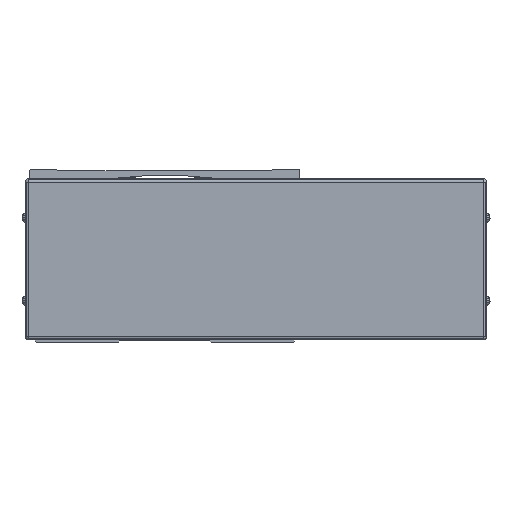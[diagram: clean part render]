
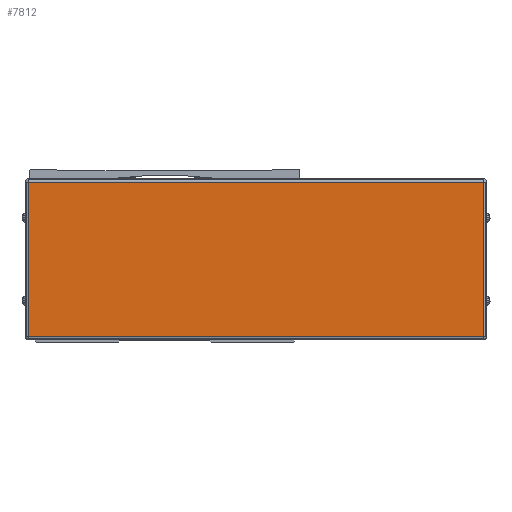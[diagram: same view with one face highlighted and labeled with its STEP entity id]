
A CAD part, front view. The second image highlights one B-rep face of the part: STEP entity #7812.
In plain terms, the highlighted planar face has unit normal (0, -1, 0).
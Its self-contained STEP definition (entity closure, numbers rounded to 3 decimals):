
#7812=ADVANCED_FACE('',(#15705),#15706,.T.);
#15705=FACE_OUTER_BOUND('',#25924,.T.);
#15706=PLANE('',#25925);
#25924=EDGE_LOOP('',(#48749,#48750,#48751,#48752));
#25925=AXIS2_PLACEMENT_3D('',#48753,#48754,#48755);
#48749=ORIENTED_EDGE('',*,*,#54082,.F.);
#48750=ORIENTED_EDGE('',*,*,#49634,.F.);
#48751=ORIENTED_EDGE('',*,*,#55990,.F.);
#48752=ORIENTED_EDGE('',*,*,#56530,.F.);
#48753=CARTESIAN_POINT('',(-545.,27.222,-2.));
#48754=DIRECTION('',(0.,-1.0,0.));
#48755=DIRECTION('',(1.0,0.,0.));
#49634=EDGE_CURVE('',#59199,#59201,#59202,.T.);
#54082=EDGE_CURVE('',#59201,#66158,#66518,.T.);
#55990=EDGE_CURVE('',#64283,#59199,#69066,.T.);
#56530=EDGE_CURVE('',#66158,#64283,#69716,.T.);
#59199=VERTEX_POINT('',#73030);
#59201=VERTEX_POINT('',#73032);
#59202=LINE('',#73033,#73034);
#64283=VERTEX_POINT('',#80395);
#66158=VERTEX_POINT('',#83358);
#66518=LINE('',#83885,#83886);
#69066=LINE('',#87887,#87888);
#69716=LINE('',#88798,#88799);
#73030=CARTESIAN_POINT('',(-682.1,27.222,-48.5));
#73032=CARTESIAN_POINT('',(-682.1,27.222,44.5));
#73033=CARTESIAN_POINT('',(-682.1,27.222,-2.));
#73034=VECTOR('',#91703,10.0);
#80395=CARTESIAN_POINT('',(-407.9,27.222,-48.5));
#83358=CARTESIAN_POINT('',(-407.9,27.222,44.5));
#83885=CARTESIAN_POINT('',(-545.,27.222,44.5));
#83886=VECTOR('',#97205,10.0);
#87887=CARTESIAN_POINT('',(-545.,27.222,-48.5));
#87888=VECTOR('',#99368,10.0);
#88798=CARTESIAN_POINT('',(-407.9,27.222,-2.));
#88799=VECTOR('',#99936,10.0);
#91703=DIRECTION('',(0.,0.,1.0));
#97205=DIRECTION('',(1.0,0.,0.));
#99368=DIRECTION('',(-1.0,0.,0.));
#99936=DIRECTION('',(0.,0.,-1.0));
